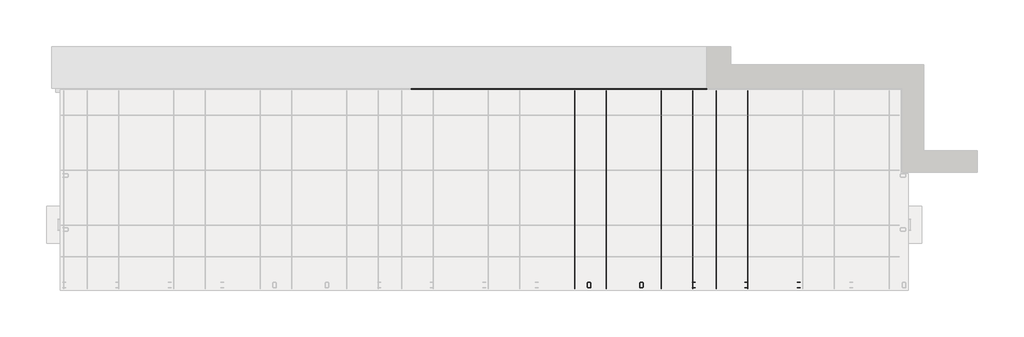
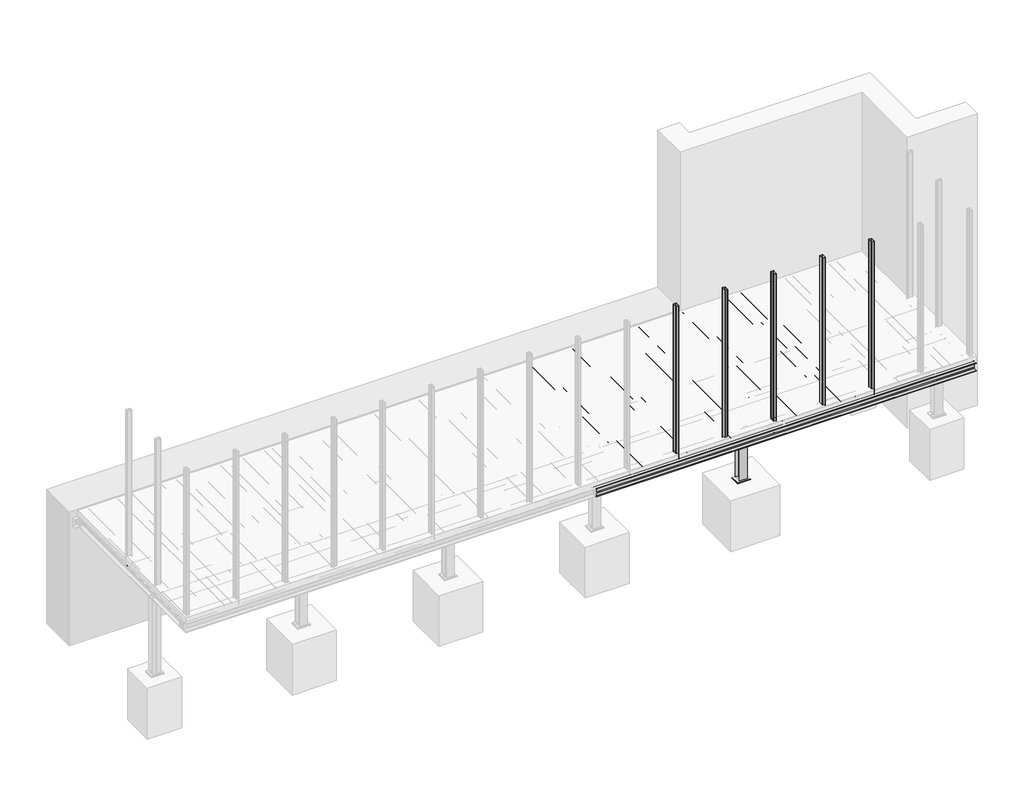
# One storey, part 4 of 36: 42 beams, 6 columns, 1 plate.
"""IFC4 building model written with IfcOpenShell, lengths in millimetres."""

from ifc_helpers import new_model, si_unit, point, frame, frame_2d, origin, place, context, project, spatial, polyline, circle_curve, trimmed, segment, composite_curve, outline, extrude, faceted_brep, element, save

model = new_model("IFC4")

# Units and contexts
model_context = context("Model", 3, world=origin())
ifc_project = project(units=[si_unit("LENGTHUNIT", "METRE", prefix="MILLI")], contexts=[model_context])

# Site, building, storey
site = spatial("IfcSite", under=ifc_project)
building = spatial("IfcBuilding", under=site)
storey = spatial("IfcBuildingStorey", under=building, Name="Základy", Elevation=-1200.0)

# Beams
placement = place(None, origin())
element("IfcBeam", 1, ObjectType="D12", at=placement, inside=storey, context=model_context, shape_type="SweptSolid", body=[
    extrude(outline(composite_curve([segment(trimmed(circle_curve(frame_2d((2079.992562, -139.0)), 6.0), [point((2073.992562, -139.0))], [point((2085.992562, -139.0))], False, "CARTESIAN"), True, "CONTINUOUS"), segment(trimmed(circle_curve(frame_2d((2079.992562, -139.0)), 6.0), [point((2085.992562, -139.0))], [point((2073.992562, -139.0))], False, "CARTESIAN"), True, "CONTINUOUS")], self_intersect=False)), frame((-40.0, 0.0, 0.0), z_axis=(1.0, 0.0, 0.0), x_axis=(0.0, 1.0, 0.0)), (0.0, 0.0, 1.0), 16180.0),
])
element("IfcBeam", 2, ObjectType="D8", at=placement, inside=storey, context=model_context, shape_type="SweptSolid", body=[
    extrude(outline(composite_curve([segment(trimmed(circle_curve(frame_2d((-49.0, 9177.5)), 4.0), [point((-49.0, 9173.5))], [point((-49.0, 9181.5))], False, "CARTESIAN"), True, "CONTINUOUS"), segment(trimmed(circle_curve(frame_2d((-49.0, 9177.5)), 4.0), [point((-49.0, 9181.5))], [point((-49.0, 9173.5))], False, "CARTESIAN"), True, "CONTINUOUS")], self_intersect=False)), frame((0.0, 35.0, 0.0), z_axis=(0.0, 1.0, 0.0), x_axis=(0.0, 0.0, 1.0)), (0.0, 0.0, 1.0), 3780.0),
])
element("IfcBeam", 3, ObjectType="D8", at=placement, inside=storey, context=model_context, shape_type="SweptSolid", body=[
    extrude(outline(composite_curve([segment(trimmed(circle_curve(frame_2d((-49.0, 9327.5)), 4.0), [point((-49.0, 9323.5))], [point((-49.0, 9331.5))], False, "CARTESIAN"), True, "CONTINUOUS"), segment(trimmed(circle_curve(frame_2d((-49.0, 9327.5)), 4.0), [point((-49.0, 9331.5))], [point((-49.0, 9323.5))], False, "CARTESIAN"), True, "CONTINUOUS")], self_intersect=False)), frame((0.0, 35.0, 0.0), z_axis=(0.0, 1.0, 0.0), x_axis=(0.0, 0.0, 1.0)), (0.0, 0.0, 1.0), 3780.0),
])
element("IfcBeam", 4, ObjectType="D8", at=placement, inside=storey, context=model_context, shape_type="SweptSolid", body=[
    extrude(outline(composite_curve([segment(trimmed(circle_curve(frame_2d((-49.0, 9477.5)), 4.0), [point((-49.0, 9473.5))], [point((-49.0, 9481.5))], False, "CARTESIAN"), True, "CONTINUOUS"), segment(trimmed(circle_curve(frame_2d((-49.0, 9477.5)), 4.0), [point((-49.0, 9481.5))], [point((-49.0, 9473.5))], False, "CARTESIAN"), True, "CONTINUOUS")], self_intersect=False)), frame((0.0, 35.0, 0.0), z_axis=(0.0, 1.0, 0.0), x_axis=(0.0, 0.0, 1.0)), (0.0, 0.0, 1.0), 3780.0),
])
element("IfcBeam", 5, ObjectType="D8", at=placement, inside=storey, context=model_context, shape_type="SweptSolid", body=[
    extrude(outline(composite_curve([segment(trimmed(circle_curve(frame_2d((-49.0, 9627.5)), 4.0), [point((-49.0, 9623.5))], [point((-49.0, 9631.5))], False, "CARTESIAN"), True, "CONTINUOUS"), segment(trimmed(circle_curve(frame_2d((-49.0, 9627.5)), 4.0), [point((-49.0, 9631.5))], [point((-49.0, 9623.5))], False, "CARTESIAN"), True, "CONTINUOUS")], self_intersect=False)), frame((0.0, 35.0, 0.0), z_axis=(0.0, 1.0, 0.0), x_axis=(0.0, 0.0, 1.0)), (0.0, 0.0, 1.0), 3780.0),
])
element("IfcBeam", 6, ObjectType="D8", at=placement, inside=storey, context=model_context, shape_type="SweptSolid", body=[
    extrude(outline(composite_curve([segment(trimmed(circle_curve(frame_2d((-49.0, 9777.5)), 4.0), [point((-49.0, 9773.5))], [point((-49.0, 9781.5))], False, "CARTESIAN"), True, "CONTINUOUS"), segment(trimmed(circle_curve(frame_2d((-49.0, 9777.5)), 4.0), [point((-49.0, 9781.5))], [point((-49.0, 9773.5))], False, "CARTESIAN"), True, "CONTINUOUS")], self_intersect=False)), frame((0.0, 35.0, 0.0), z_axis=(0.0, 1.0, 0.0), x_axis=(0.0, 0.0, 1.0)), (0.0, 0.0, 1.0), 3780.0),
])
element("IfcBeam", 7, ObjectType="D8", at=placement, inside=storey, context=model_context, shape_type="SweptSolid", body=[
    extrude(outline(composite_curve([segment(trimmed(circle_curve(frame_2d((-49.0, 9927.5)), 4.0), [point((-49.0, 9923.5))], [point((-49.0, 9931.5))], False, "CARTESIAN"), True, "CONTINUOUS"), segment(trimmed(circle_curve(frame_2d((-49.0, 9927.5)), 4.0), [point((-49.0, 9931.5))], [point((-49.0, 9923.5))], False, "CARTESIAN"), True, "CONTINUOUS")], self_intersect=False)), frame((0.0, 35.0, 0.0), z_axis=(0.0, 1.0, 0.0), x_axis=(0.0, 0.0, 1.0)), (0.0, 0.0, 1.0), 3780.0),
])
element("IfcBeam", 8, ObjectType="D8", at=placement, inside=storey, context=model_context, shape_type="SweptSolid", body=[
    extrude(outline(composite_curve([segment(trimmed(circle_curve(frame_2d((-49.0, 10077.5)), 4.0), [point((-49.0, 10073.5))], [point((-49.0, 10081.5))], False, "CARTESIAN"), True, "CONTINUOUS"), segment(trimmed(circle_curve(frame_2d((-49.0, 10077.5)), 4.0), [point((-49.0, 10081.5))], [point((-49.0, 10073.5))], False, "CARTESIAN"), True, "CONTINUOUS")], self_intersect=False)), frame((0.0, 35.0, 0.0), z_axis=(0.0, 1.0, 0.0), x_axis=(0.0, 0.0, 1.0)), (0.0, 0.0, 1.0), 3780.0),
])
element("IfcBeam", 9, ObjectType="D8", at=placement, inside=storey, context=model_context, shape_type="SweptSolid", body=[
    extrude(outline(composite_curve([segment(trimmed(circle_curve(frame_2d((-49.0, 10227.5)), 4.0), [point((-49.0, 10223.5))], [point((-49.0, 10231.5))], False, "CARTESIAN"), True, "CONTINUOUS"), segment(trimmed(circle_curve(frame_2d((-49.0, 10227.5)), 4.0), [point((-49.0, 10231.5))], [point((-49.0, 10223.5))], False, "CARTESIAN"), True, "CONTINUOUS")], self_intersect=False)), frame((0.0, 35.0, 0.0), z_axis=(0.0, 1.0, 0.0), x_axis=(0.0, 0.0, 1.0)), (0.0, 0.0, 1.0), 3780.0),
])
element("IfcBeam", 10, ObjectType="D8", at=placement, inside=storey, context=model_context, shape_type="SweptSolid", body=[
    extrude(outline(composite_curve([segment(trimmed(circle_curve(frame_2d((-49.0, 10377.5)), 4.0), [point((-49.0, 10373.5))], [point((-49.0, 10381.5))], False, "CARTESIAN"), True, "CONTINUOUS"), segment(trimmed(circle_curve(frame_2d((-49.0, 10377.5)), 4.0), [point((-49.0, 10381.5))], [point((-49.0, 10373.5))], False, "CARTESIAN"), True, "CONTINUOUS")], self_intersect=False)), frame((0.0, 35.0, 0.0), z_axis=(0.0, 1.0, 0.0), x_axis=(0.0, 0.0, 1.0)), (0.0, 0.0, 1.0), 3780.0),
])
element("IfcBeam", 11, ObjectType="D8", at=placement, inside=storey, context=model_context, shape_type="SweptSolid", body=[
    extrude(outline(composite_curve([segment(trimmed(circle_curve(frame_2d((-49.0, 10527.5)), 4.0), [point((-49.0, 10523.5))], [point((-49.0, 10531.5))], False, "CARTESIAN"), True, "CONTINUOUS"), segment(trimmed(circle_curve(frame_2d((-49.0, 10527.5)), 4.0), [point((-49.0, 10531.5))], [point((-49.0, 10523.5))], False, "CARTESIAN"), True, "CONTINUOUS")], self_intersect=False)), frame((0.0, 35.0, 0.0), z_axis=(0.0, 1.0, 0.0), x_axis=(0.0, 0.0, 1.0)), (0.0, 0.0, 1.0), 3780.0),
])
element("IfcBeam", 12, ObjectType="D8", at=placement, inside=storey, context=model_context, shape_type="SweptSolid", body=[
    extrude(outline(composite_curve([segment(trimmed(circle_curve(frame_2d((-49.0, 10677.5)), 4.0), [point((-49.0, 10673.5))], [point((-49.0, 10681.5))], False, "CARTESIAN"), True, "CONTINUOUS"), segment(trimmed(circle_curve(frame_2d((-49.0, 10677.5)), 4.0), [point((-49.0, 10681.5))], [point((-49.0, 10673.5))], False, "CARTESIAN"), True, "CONTINUOUS")], self_intersect=False)), frame((0.0, 35.0, 0.0), z_axis=(0.0, 1.0, 0.0), x_axis=(0.0, 0.0, 1.0)), (0.0, 0.0, 1.0), 3780.0),
])
element("IfcBeam", 13, ObjectType="D8", at=placement, inside=storey, context=model_context, shape_type="SweptSolid", body=[
    extrude(outline(composite_curve([segment(trimmed(circle_curve(frame_2d((-49.0, 10827.5)), 4.0), [point((-49.0, 10823.5))], [point((-49.0, 10831.5))], False, "CARTESIAN"), True, "CONTINUOUS"), segment(trimmed(circle_curve(frame_2d((-49.0, 10827.5)), 4.0), [point((-49.0, 10831.5))], [point((-49.0, 10823.5))], False, "CARTESIAN"), True, "CONTINUOUS")], self_intersect=False)), frame((0.0, 35.0, 0.0), z_axis=(0.0, 1.0, 0.0), x_axis=(0.0, 0.0, 1.0)), (0.0, 0.0, 1.0), 3780.0),
])
element("IfcBeam", 14, ObjectType="D8", at=placement, inside=storey, context=model_context, shape_type="SweptSolid", body=[
    extrude(outline(composite_curve([segment(trimmed(circle_curve(frame_2d((-49.0, 10977.5)), 4.0), [point((-49.0, 10973.5))], [point((-49.0, 10981.5))], False, "CARTESIAN"), True, "CONTINUOUS"), segment(trimmed(circle_curve(frame_2d((-49.0, 10977.5)), 4.0), [point((-49.0, 10981.5))], [point((-49.0, 10973.5))], False, "CARTESIAN"), True, "CONTINUOUS")], self_intersect=False)), frame((0.0, 35.0, 0.0), z_axis=(0.0, 1.0, 0.0), x_axis=(0.0, 0.0, 1.0)), (0.0, 0.0, 1.0), 3780.0),
])
element("IfcBeam", 15, ObjectType="D8", at=placement, inside=storey, context=model_context, shape_type="SweptSolid", body=[
    extrude(outline(composite_curve([segment(trimmed(circle_curve(frame_2d((-49.0, 11127.5)), 4.0), [point((-49.0, 11123.5))], [point((-49.0, 11131.5))], False, "CARTESIAN"), True, "CONTINUOUS"), segment(trimmed(circle_curve(frame_2d((-49.0, 11127.5)), 4.0), [point((-49.0, 11131.5))], [point((-49.0, 11123.5))], False, "CARTESIAN"), True, "CONTINUOUS")], self_intersect=False)), frame((0.0, 35.0, 0.0), z_axis=(0.0, 1.0, 0.0), x_axis=(0.0, 0.0, 1.0)), (0.0, 0.0, 1.0), 3780.0),
])
element("IfcBeam", 16, ObjectType="D8", at=placement, inside=storey, context=model_context, shape_type="SweptSolid", body=[
    extrude(outline(composite_curve([segment(trimmed(circle_curve(frame_2d((-49.0, 11277.5)), 4.0), [point((-49.0, 11273.5))], [point((-49.0, 11281.5))], False, "CARTESIAN"), True, "CONTINUOUS"), segment(trimmed(circle_curve(frame_2d((-49.0, 11277.5)), 4.0), [point((-49.0, 11281.5))], [point((-49.0, 11273.5))], False, "CARTESIAN"), True, "CONTINUOUS")], self_intersect=False)), frame((0.0, 35.0, 0.0), z_axis=(0.0, 1.0, 0.0), x_axis=(0.0, 0.0, 1.0)), (0.0, 0.0, 1.0), 3780.0),
])
element("IfcBeam", 17, ObjectType="D8", at=placement, inside=storey, context=model_context, shape_type="SweptSolid", body=[
    extrude(outline(composite_curve([segment(trimmed(circle_curve(frame_2d((-49.0, 11427.5)), 4.0), [point((-49.0, 11423.5))], [point((-49.0, 11431.5))], False, "CARTESIAN"), True, "CONTINUOUS"), segment(trimmed(circle_curve(frame_2d((-49.0, 11427.5)), 4.0), [point((-49.0, 11431.5))], [point((-49.0, 11423.5))], False, "CARTESIAN"), True, "CONTINUOUS")], self_intersect=False)), frame((0.0, 35.0, 0.0), z_axis=(0.0, 1.0, 0.0), x_axis=(0.0, 0.0, 1.0)), (0.0, 0.0, 1.0), 3780.0),
])
element("IfcBeam", 18, ObjectType="D8", at=placement, inside=storey, context=model_context, shape_type="SweptSolid", body=[
    extrude(outline(composite_curve([segment(trimmed(circle_curve(frame_2d((-49.0, 11577.5)), 4.0), [point((-49.0, 11573.5))], [point((-49.0, 11581.5))], False, "CARTESIAN"), True, "CONTINUOUS"), segment(trimmed(circle_curve(frame_2d((-49.0, 11577.5)), 4.0), [point((-49.0, 11581.5))], [point((-49.0, 11573.5))], False, "CARTESIAN"), True, "CONTINUOUS")], self_intersect=False)), frame((0.0, 35.0, 0.0), z_axis=(0.0, 1.0, 0.0), x_axis=(0.0, 0.0, 1.0)), (0.0, 0.0, 1.0), 3780.0),
])
element("IfcBeam", 19, ObjectType="D8", at=placement, inside=storey, context=model_context, shape_type="SweptSolid", body=[
    extrude(outline(composite_curve([segment(trimmed(circle_curve(frame_2d((-49.0, 11727.5)), 4.0), [point((-49.0, 11723.5))], [point((-49.0, 11731.5))], False, "CARTESIAN"), True, "CONTINUOUS"), segment(trimmed(circle_curve(frame_2d((-49.0, 11727.5)), 4.0), [point((-49.0, 11731.5))], [point((-49.0, 11723.5))], False, "CARTESIAN"), True, "CONTINUOUS")], self_intersect=False)), frame((0.0, 35.0, 0.0), z_axis=(0.0, 1.0, 0.0), x_axis=(0.0, 0.0, 1.0)), (0.0, 0.0, 1.0), 3780.0),
])
element("IfcBeam", 20, ObjectType="D8", at=placement, inside=storey, context=model_context, shape_type="SweptSolid", body=[
    extrude(outline(composite_curve([segment(trimmed(circle_curve(frame_2d((-49.0, 11877.5)), 4.0), [point((-49.0, 11873.5))], [point((-49.0, 11881.5))], False, "CARTESIAN"), True, "CONTINUOUS"), segment(trimmed(circle_curve(frame_2d((-49.0, 11877.5)), 4.0), [point((-49.0, 11881.5))], [point((-49.0, 11873.5))], False, "CARTESIAN"), True, "CONTINUOUS")], self_intersect=False)), frame((0.0, 35.0, 0.0), z_axis=(0.0, 1.0, 0.0), x_axis=(0.0, 0.0, 1.0)), (0.0, 0.0, 1.0), 3780.0),
])
element("IfcBeam", 21, ObjectType="D8", at=placement, inside=storey, context=model_context, shape_type="SweptSolid", body=[
    extrude(outline(composite_curve([segment(trimmed(circle_curve(frame_2d((-49.0, 12027.5)), 4.0), [point((-49.0, 12023.5))], [point((-49.0, 12031.5))], False, "CARTESIAN"), True, "CONTINUOUS"), segment(trimmed(circle_curve(frame_2d((-49.0, 12027.5)), 4.0), [point((-49.0, 12031.5))], [point((-49.0, 12023.5))], False, "CARTESIAN"), True, "CONTINUOUS")], self_intersect=False)), frame((0.0, 35.0, 0.0), z_axis=(0.0, 1.0, 0.0), x_axis=(0.0, 0.0, 1.0)), (0.0, 0.0, 1.0), 3780.0),
])
element("IfcBeam", 22, ObjectType="D8", at=placement, inside=storey, context=model_context, shape_type="SweptSolid", body=[
    extrude(outline(composite_curve([segment(trimmed(circle_curve(frame_2d((-49.0, 12177.5)), 4.0), [point((-49.0, 12173.5))], [point((-49.0, 12181.5))], False, "CARTESIAN"), True, "CONTINUOUS"), segment(trimmed(circle_curve(frame_2d((-49.0, 12177.5)), 4.0), [point((-49.0, 12181.5))], [point((-49.0, 12173.5))], False, "CARTESIAN"), True, "CONTINUOUS")], self_intersect=False)), frame((0.0, 35.0, 0.0), z_axis=(0.0, 1.0, 0.0), x_axis=(0.0, 0.0, 1.0)), (0.0, 0.0, 1.0), 3780.0),
])
element("IfcBeam", 23, ObjectType="D8", at=placement, inside=storey, context=model_context, shape_type="SweptSolid", body=[
    extrude(outline(composite_curve([segment(trimmed(circle_curve(frame_2d((-49.0, 12327.5)), 4.0), [point((-49.0, 12323.5))], [point((-49.0, 12331.5))], False, "CARTESIAN"), True, "CONTINUOUS"), segment(trimmed(circle_curve(frame_2d((-49.0, 12327.5)), 4.0), [point((-49.0, 12331.5))], [point((-49.0, 12323.5))], False, "CARTESIAN"), True, "CONTINUOUS")], self_intersect=False)), frame((0.0, 35.0, 0.0), z_axis=(0.0, 1.0, 0.0), x_axis=(0.0, 0.0, 1.0)), (0.0, 0.0, 1.0), 3780.0),
])
element("IfcBeam", 24, ObjectType="D8", at=placement, inside=storey, context=model_context, shape_type="SweptSolid", body=[
    extrude(outline(composite_curve([segment(trimmed(circle_curve(frame_2d((-49.0, 12477.5)), 4.0), [point((-49.0, 12473.5))], [point((-49.0, 12481.5))], False, "CARTESIAN"), True, "CONTINUOUS"), segment(trimmed(circle_curve(frame_2d((-49.0, 12477.5)), 4.0), [point((-49.0, 12481.5))], [point((-49.0, 12473.5))], False, "CARTESIAN"), True, "CONTINUOUS")], self_intersect=False)), frame((0.0, 35.0, 0.0), z_axis=(0.0, 1.0, 0.0), x_axis=(0.0, 0.0, 1.0)), (0.0, 0.0, 1.0), 3780.0),
])
element("IfcBeam", 25, ObjectType="D8", at=placement, inside=storey, context=model_context, shape_type="SweptSolid", body=[
    extrude(outline(composite_curve([segment(trimmed(circle_curve(frame_2d((-49.0, 12627.5)), 4.0), [point((-49.0, 12623.5))], [point((-49.0, 12631.5))], False, "CARTESIAN"), True, "CONTINUOUS"), segment(trimmed(circle_curve(frame_2d((-49.0, 12627.5)), 4.0), [point((-49.0, 12631.5))], [point((-49.0, 12623.5))], False, "CARTESIAN"), True, "CONTINUOUS")], self_intersect=False)), frame((0.0, 35.0, 0.0), z_axis=(0.0, 1.0, 0.0), x_axis=(0.0, 0.0, 1.0)), (0.0, 0.0, 1.0), 3780.0),
])
element("IfcBeam", 26, ObjectType="D8", at=placement, inside=storey, context=model_context, shape_type="SweptSolid", body=[
    extrude(outline(composite_curve([segment(trimmed(circle_curve(frame_2d((-49.0, 12777.5)), 4.0), [point((-49.0, 12773.5))], [point((-49.0, 12781.5))], False, "CARTESIAN"), True, "CONTINUOUS"), segment(trimmed(circle_curve(frame_2d((-49.0, 12777.5)), 4.0), [point((-49.0, 12781.5))], [point((-49.0, 12773.5))], False, "CARTESIAN"), True, "CONTINUOUS")], self_intersect=False)), frame((0.0, 35.0, 0.0), z_axis=(0.0, 1.0, 0.0), x_axis=(0.0, 0.0, 1.0)), (0.0, 0.0, 1.0), 3780.0),
])
element("IfcBeam", 27, ObjectType="D8", at=placement, inside=storey, context=model_context, shape_type="SweptSolid", body=[
    extrude(outline(composite_curve([segment(trimmed(circle_curve(frame_2d((-49.0, 12927.5)), 4.0), [point((-49.0, 12923.5))], [point((-49.0, 12931.5))], False, "CARTESIAN"), True, "CONTINUOUS"), segment(trimmed(circle_curve(frame_2d((-49.0, 12927.5)), 4.0), [point((-49.0, 12931.5))], [point((-49.0, 12923.5))], False, "CARTESIAN"), True, "CONTINUOUS")], self_intersect=False)), frame((0.0, 35.0, 0.0), z_axis=(0.0, 1.0, 0.0), x_axis=(0.0, 0.0, 1.0)), (0.0, 0.0, 1.0), 3780.0),
])
element("IfcBeam", 28, ObjectType="D8", at=placement, inside=storey, context=model_context, shape_type="SweptSolid", body=[
    extrude(outline(composite_curve([segment(trimmed(circle_curve(frame_2d((-49.0, 13077.5)), 4.0), [point((-49.0, 13073.5))], [point((-49.0, 13081.5))], False, "CARTESIAN"), True, "CONTINUOUS"), segment(trimmed(circle_curve(frame_2d((-49.0, 13077.5)), 4.0), [point((-49.0, 13081.5))], [point((-49.0, 13073.5))], False, "CARTESIAN"), True, "CONTINUOUS")], self_intersect=False)), frame((0.0, 35.0, 0.0), z_axis=(0.0, 1.0, 0.0), x_axis=(0.0, 0.0, 1.0)), (0.0, 0.0, 1.0), 3780.0),
])
element("IfcBeam", 29, ObjectType="D8", at=placement, inside=storey, context=model_context, shape_type="SweptSolid", body=[
    extrude(outline(composite_curve([segment(trimmed(circle_curve(frame_2d((-49.0, 13227.5)), 4.0), [point((-49.0, 13223.5))], [point((-49.0, 13231.5))], False, "CARTESIAN"), True, "CONTINUOUS"), segment(trimmed(circle_curve(frame_2d((-49.0, 13227.5)), 4.0), [point((-49.0, 13231.5))], [point((-49.0, 13223.5))], False, "CARTESIAN"), True, "CONTINUOUS")], self_intersect=False)), frame((0.0, 35.0, 0.0), z_axis=(0.0, 1.0, 0.0), x_axis=(0.0, 0.0, 1.0)), (0.0, 0.0, 1.0), 3780.0),
])
element("IfcBeam", 30, ObjectType="D8", at=placement, inside=storey, context=model_context, shape_type="SweptSolid", body=[
    extrude(outline(composite_curve([segment(trimmed(circle_curve(frame_2d((-49.0, 13377.5)), 4.0), [point((-49.0, 13373.5))], [point((-49.0, 13381.5))], False, "CARTESIAN"), True, "CONTINUOUS"), segment(trimmed(circle_curve(frame_2d((-49.0, 13377.5)), 4.0), [point((-49.0, 13381.5))], [point((-49.0, 13373.5))], False, "CARTESIAN"), True, "CONTINUOUS")], self_intersect=False)), frame((0.0, 35.0, 0.0), z_axis=(0.0, 1.0, 0.0), x_axis=(0.0, 0.0, 1.0)), (0.0, 0.0, 1.0), 3780.0),
])
element("IfcBeam", 31, ObjectType="D8", at=placement, inside=storey, context=model_context, shape_type="SweptSolid", body=[
    extrude(outline(composite_curve([segment(trimmed(circle_curve(frame_2d((-49.0, 13527.5)), 4.0), [point((-49.0, 13523.5))], [point((-49.0, 13531.5))], False, "CARTESIAN"), True, "CONTINUOUS"), segment(trimmed(circle_curve(frame_2d((-49.0, 13527.5)), 4.0), [point((-49.0, 13531.5))], [point((-49.0, 13523.5))], False, "CARTESIAN"), True, "CONTINUOUS")], self_intersect=False)), frame((0.0, 35.0, 0.0), z_axis=(0.0, 1.0, 0.0), x_axis=(0.0, 0.0, 1.0)), (0.0, 0.0, 1.0), 3780.0),
])
element("IfcBeam", 32, ObjectType="D8", at=placement, inside=storey, context=model_context, shape_type="SweptSolid", body=[
    extrude(outline(composite_curve([segment(trimmed(circle_curve(frame_2d((-49.0, 13677.5)), 4.0), [point((-49.0, 13673.5))], [point((-49.0, 13681.5))], False, "CARTESIAN"), True, "CONTINUOUS"), segment(trimmed(circle_curve(frame_2d((-49.0, 13677.5)), 4.0), [point((-49.0, 13681.5))], [point((-49.0, 13673.5))], False, "CARTESIAN"), True, "CONTINUOUS")], self_intersect=False)), frame((0.0, 35.0, 0.0), z_axis=(0.0, 1.0, 0.0), x_axis=(0.0, 0.0, 1.0)), (0.0, 0.0, 1.0), 3780.0),
])
element("IfcBeam", 33, ObjectType="D8", at=placement, inside=storey, context=model_context, shape_type="SweptSolid", body=[
    extrude(outline(composite_curve([segment(trimmed(circle_curve(frame_2d((-49.0, 13827.5)), 4.0), [point((-49.0, 13823.5))], [point((-49.0, 13831.5))], False, "CARTESIAN"), True, "CONTINUOUS"), segment(trimmed(circle_curve(frame_2d((-49.0, 13827.5)), 4.0), [point((-49.0, 13831.5))], [point((-49.0, 13823.5))], False, "CARTESIAN"), True, "CONTINUOUS")], self_intersect=False)), frame((0.0, 35.0, 0.0), z_axis=(0.0, 1.0, 0.0), x_axis=(0.0, 0.0, 1.0)), (0.0, 0.0, 1.0), 3780.0),
])
element("IfcBeam", 34, ObjectType="D8", at=placement, inside=storey, context=model_context, shape_type="SweptSolid", body=[
    extrude(outline(composite_curve([segment(trimmed(circle_curve(frame_2d((-49.0, 13977.5)), 4.0), [point((-49.0, 13973.5))], [point((-49.0, 13981.5))], False, "CARTESIAN"), True, "CONTINUOUS"), segment(trimmed(circle_curve(frame_2d((-49.0, 13977.5)), 4.0), [point((-49.0, 13981.5))], [point((-49.0, 13973.5))], False, "CARTESIAN"), True, "CONTINUOUS")], self_intersect=False)), frame((0.0, 35.0, 0.0), z_axis=(0.0, 1.0, 0.0), x_axis=(0.0, 0.0, 1.0)), (0.0, 0.0, 1.0), 3780.0),
])
element("IfcBeam", 35, ObjectType="HEA120", at=placement, inside=storey, context=model_context, shape_type="SweptSolid", body=[
    extrude(outline(composite_curve([segment(polyline([(1200.0, -193.0), (1320.0, -193.0), (1320.0, -201.0), (1274.5, -201.0)]), True, "CONTINUOUS"), segment(trimmed(circle_curve(frame_2d((1274.5, -213.0)), 12.0), [point((1274.5, -201.0))], [point((1262.5, -213.0))], True, "CARTESIAN"), True, "CONTINUOUS"), segment(polyline([(1262.5, -213.0), (1262.5, -287.0)]), True, "CONTINUOUS"), segment(trimmed(circle_curve(frame_2d((1274.5, -287.0)), 12.0), [point((1262.5, -287.0))], [point((1274.5, -299.0))], True, "CARTESIAN"), True, "CONTINUOUS"), segment(polyline([(1274.5, -299.0), (1320.0, -299.0), (1320.0, -307.0), (1200.0, -307.0), (1200.0, -299.0), (1245.5, -299.0)]), True, "CONTINUOUS"), segment(trimmed(circle_curve(frame_2d((1245.5, -287.0)), 12.0), [point((1245.5, -299.0))], [point((1257.5, -287.0))], True, "CARTESIAN"), True, "CONTINUOUS"), segment(polyline([(1257.5, -287.0), (1257.5, -213.0)]), True, "CONTINUOUS"), segment(trimmed(circle_curve(frame_2d((1245.5, -213.0)), 12.0), [point((1257.5, -213.0))], [point((1245.5, -201.0))], True, "CARTESIAN"), True, "CONTINUOUS"), segment(polyline([(1245.5, -201.0), (1200.0, -201.0), (1200.0, -193.0)]), True, "CONTINUOUS")], self_intersect=False)), frame((9160.0, 0.0, 0.0), z_axis=(1.0, 0.0, 0.0), x_axis=(0.0, 1.0, 0.0)), (0.0, 0.0, 1.0), 2780.0),
])
element("IfcBeam", 36, ObjectType="HEB180", at=placement, inside=storey, context=model_context, shape_type="SweptSolid", body=[
    extrude(outline(composite_curve([segment(polyline([(-340.0, 12140.0), (-326.0, 12140.0), (-326.0, 12069.25)]), True, "CONTINUOUS"), segment(trimmed(circle_curve(frame_2d((-311.0, 12069.25)), 15.0), [point((-326.0, 12069.25))], [point((-311.0, 12054.25))], True, "CARTESIAN"), True, "CONTINUOUS"), segment(polyline([(-311.0, 12054.25), (-189.0, 12054.25)]), True, "CONTINUOUS"), segment(trimmed(circle_curve(frame_2d((-189.0, 12069.25)), 15.0), [point((-189.0, 12054.25))], [point((-174.0, 12069.25))], True, "CARTESIAN"), True, "CONTINUOUS"), segment(polyline([(-174.0, 12069.25), (-174.0, 12140.0), (-160.0, 12140.0), (-160.0, 11960.0), (-174.0, 11960.0), (-174.0, 12030.75)]), True, "CONTINUOUS"), segment(trimmed(circle_curve(frame_2d((-189.0, 12030.75)), 15.0), [point((-174.0, 12030.75))], [point((-189.0, 12045.75))], True, "CARTESIAN"), True, "CONTINUOUS"), segment(polyline([(-189.0, 12045.75), (-311.0, 12045.75)]), True, "CONTINUOUS"), segment(trimmed(circle_curve(frame_2d((-311.0, 12030.75)), 15.0), [point((-311.0, 12045.75))], [point((-326.0, 12030.75))], True, "CARTESIAN"), True, "CONTINUOUS"), segment(polyline([(-326.0, 12030.75), (-326.0, 11960.0), (-340.0, 11960.0), (-340.0, 12140.0)]), True, "CONTINUOUS")], self_intersect=False)), frame((0.0, 210.0, 0.0), z_axis=(0.0, 1.0, 0.0), x_axis=(0.0, 0.0, 1.0)), (0.0, 0.0, 1.0), 3557.0),
])
element("IfcBeam", 37, ObjectType="HEB180", at=placement, inside=storey, context=model_context, shape_type="SweptSolid", body=[
    extrude(outline(composite_curve([segment(polyline([(10.0, -160.0), (190.0, -160.0), (190.0, -174.0), (119.25, -174.0)]), True, "CONTINUOUS"), segment(trimmed(circle_curve(frame_2d((119.25, -189.0)), 15.0), [point((119.25, -174.0))], [point((104.25, -189.0))], True, "CARTESIAN"), True, "CONTINUOUS"), segment(polyline([(104.25, -189.0), (104.25, -311.0)]), True, "CONTINUOUS"), segment(trimmed(circle_curve(frame_2d((119.25, -311.0)), 15.0), [point((104.25, -311.0))], [point((119.25, -326.0))], True, "CARTESIAN"), True, "CONTINUOUS"), segment(polyline([(119.25, -326.0), (190.0, -326.0), (190.0, -340.0), (10.0, -340.0), (10.0, -326.0), (80.75, -326.0)]), True, "CONTINUOUS"), segment(trimmed(circle_curve(frame_2d((80.75, -311.0)), 15.0), [point((80.75, -326.0))], [point((95.75, -311.0))], True, "CARTESIAN"), True, "CONTINUOUS"), segment(polyline([(95.75, -311.0), (95.75, -189.0)]), True, "CONTINUOUS"), segment(trimmed(circle_curve(frame_2d((80.75, -189.0)), 15.0), [point((95.75, -189.0))], [point((80.75, -174.0))], True, "CARTESIAN"), True, "CONTINUOUS"), segment(polyline([(80.75, -174.0), (10.0, -174.0), (10.0, -160.0)]), True, "CONTINUOUS")], self_intersect=False)), frame((8360.0, 0.0, 0.0), z_axis=(1.0, 0.0, 0.0), x_axis=(0.0, 1.0, 0.0)), (0.0, 0.0, 1.0), 7780.0),
])
element("IfcBeam", 38, ObjectType="TR50/250", at=placement, inside=storey, context=model_context, shape_type="SweptSolid", body=[
    extrude(outline(polyline([(3802.7875602, -160.0099992), (3772.2875602, -111.5000008), (3637.6975638, -111.5000008), (3607.1975638, -160.0000008), (3552.7875754, -160.0000008), (3522.2875754, -111.5000008), (3387.6975715, -111.5000008), (3357.1975715, -160.0000008), (3302.7875697, -160.0000008), (3272.2875716, -111.5000008), (3137.6975638, -111.5000008), (3107.1975638, -160.0000008), (3052.7875602, -160.0000008), (3022.2875602, -111.5000008), (2887.6975638, -111.5000008), (2857.1975638, -160.0000008), (2802.7875602, -160.0000008), (2790.7375724, -139.4300002), (2803.1975638, -159.2500008), (2856.7875602, -159.2500008), (2887.2875602, -110.7500008), (3022.6975638, -110.7500008), (3053.1975638, -159.2500008), (3106.7875754, -159.2500008), (3137.2875754, -110.7500008), (3272.6975715, -110.7500008), (3303.1975695, -159.2500008), (3356.7875716, -159.2500008), (3387.2875678, -110.7500008), (3522.6975638, -110.7500008), (3553.1975638, -159.2500008), (3606.7875602, -159.2500008), (3637.2875602, -110.7500008), (3772.6975638, -110.7500008), (3803.1975638, -159.2500008), (3839.9975821, -160.0000008), (3802.7875602, -160.0099992)])), frame((8960.0, 0.0, 0.0), z_axis=(1.0, 0.0, 0.0), x_axis=(0.0, 1.0, 0.0)), (0.0, 0.0, 1.0), 3180.0),
])
element("IfcBeam", 39, ObjectType="TR50/250", at=placement, inside=storey, context=model_context, shape_type="SweptSolid", body=[
    extrude(outline(polyline([(2802.7875602, -160.0099992), (2772.2875602, -111.5000008), (2637.6975638, -111.5000008), (2607.1975638, -160.0000008), (2552.7875754, -160.0000008), (2522.2875754, -111.5000008), (2387.6975715, -111.5000008), (2357.1975715, -160.0000008), (2302.7875697, -160.0000008), (2272.2875716, -111.5000008), (2137.6975638, -111.5000008), (2107.1975638, -160.0000008), (2052.7875602, -160.0000008), (2022.2875602, -111.5000008), (1887.6975638, -111.5000008), (1857.1975638, -160.0000008), (1802.7875602, -160.0000008), (1790.7375724, -139.4300002), (1803.1975638, -159.2500008), (1856.7875602, -159.2500008), (1887.2875602, -110.7500008), (2022.6975638, -110.7500008), (2053.1975638, -159.2500008), (2106.7875754, -159.2500008), (2137.2875754, -110.7500008), (2272.6975715, -110.7500008), (2303.1975695, -159.2500008), (2356.7875716, -159.2500008), (2387.2875678, -110.7500008), (2522.6975638, -110.7500008), (2553.1975638, -159.2500008), (2606.7875602, -159.2500008), (2637.2875602, -110.7500008), (2772.6975638, -110.7500008), (2803.1975638, -159.2500008), (2839.9975821, -160.0000008), (2802.7875602, -160.0099992)])), frame((8960.0, 0.0, 0.0), z_axis=(1.0, 0.0, 0.0), x_axis=(0.0, 1.0, 0.0)), (0.0, 0.0, 1.0), 3180.0),
])
element("IfcBeam", 40, ObjectType="TR50/250", at=placement, inside=storey, context=model_context, shape_type="SweptSolid", body=[
    extrude(outline(polyline([(1802.7875602, -160.0099992), (1772.2875602, -111.5000008), (1637.6975638, -111.5000008), (1607.1975638, -160.0000008), (1552.7875754, -160.0000008), (1522.2875754, -111.5000008), (1387.6975715, -111.5000008), (1357.1975715, -160.0000008), (1302.7875697, -160.0000008), (1272.2875716, -111.5000008), (1137.6975638, -111.5000008), (1107.1975638, -160.0000008), (1052.7875602, -160.0000008), (1022.2875602, -111.5000008), (887.6975638, -111.5000008), (857.1975638, -160.0000008), (802.7875602, -160.0000008), (790.7375724, -139.4300002), (803.1975638, -159.2500008), (856.7875602, -159.2500008), (887.2875602, -110.7500008), (1022.6975638, -110.7500008), (1053.1975638, -159.2500008), (1106.7875754, -159.2500008), (1137.2875754, -110.7500008), (1272.6975715, -110.7500008), (1303.1975695, -159.2500008), (1356.7875716, -159.2500008), (1387.2875678, -110.7500008), (1522.6975638, -110.7500008), (1553.1975638, -159.2500008), (1606.7875602, -159.2500008), (1637.2875602, -110.7500008), (1772.6975638, -110.7500008), (1803.1975638, -159.2500008), (1839.9975821, -160.0000008), (1802.7875602, -160.0099992)])), frame((8960.0, 0.0, 0.0), z_axis=(1.0, 0.0, 0.0), x_axis=(0.0, 1.0, 0.0)), (0.0, 0.0, 1.0), 3180.0),
])
element("IfcBeam", 41, ObjectType="TR50/250", at=placement, inside=storey, context=model_context, shape_type="SweptSolid", body=[
    extrude(outline(polyline([(802.7875602, -160.0099992), (772.2875602, -111.5000008), (637.6975638, -111.5000008), (607.1975638, -160.0000008), (552.7875754, -160.0000008), (522.2875754, -111.5000008), (387.6975715, -111.5000008), (357.1975715, -160.0000008), (302.7875697, -160.0000008), (272.2875716, -111.5000008), (160.0, -111.5000008), (160.0, -110.7500008), (272.6975715, -110.7500008), (303.1975695, -159.2500008), (356.7875716, -159.2500008), (387.2875678, -110.7500008), (522.6975638, -110.7500008), (553.1975638, -159.2500008), (606.7875602, -159.2500008), (637.2875602, -110.7500008), (772.6975638, -110.7500008), (803.1975638, -159.2500008), (839.9975821, -160.0000008), (802.7875602, -160.0099992)])), frame((8960.0, 0.0, 0.0), z_axis=(1.0, 0.0, 0.0), x_axis=(0.0, 1.0, 0.0)), (0.0, 0.0, 1.0), 3180.0),
])
element("IfcBeam", 42, ObjectType="UPE180", at=placement, inside=storey, context=model_context, shape_type="SweptSolid", body=[
    extrude(outline(polyline([(3860.0, -160.0), (3860.0, -340.0), (3785.0, -340.0), (3785.0, -329.5), (3854.5, -329.5), (3854.5, -170.5), (3785.0, -170.5), (3785.0, -160.0), (3860.0, -160.0)])), frame((6660.0, 0.0, 0.0), z_axis=(1.0, 0.0, 0.0), x_axis=(0.0, 1.0, 0.0)), (0.0, 0.0, 1.0), 5635.0),
])

# Columns
element("IfcColumn", 43, ObjectType="RHS100*60*3.2", at=placement, inside=storey, context=model_context, shape_type="SweptSolid", body=[
    extrude(outline(composite_curve([segment(polyline([(12073.6, 60.0), (12026.4, 60.0)]), True, "CONTINUOUS"), segment(trimmed(circle_curve(frame_2d((12026.4, 66.4)), 6.4), [point((12026.4, 60.0))], [point((12020.0, 66.4))], False, "CARTESIAN"), True, "CONTINUOUS"), segment(polyline([(12020.0, 66.4), (12020.0, 153.6)]), True, "CONTINUOUS"), segment(trimmed(circle_curve(frame_2d((12026.4, 153.6)), 6.4), [point((12020.0, 153.6))], [point((12026.4, 160.0))], False, "CARTESIAN"), True, "CONTINUOUS"), segment(polyline([(12026.4, 160.0), (12073.6, 160.0)]), True, "CONTINUOUS"), segment(trimmed(circle_curve(frame_2d((12073.6, 153.6)), 6.4), [point((12073.6, 160.0))], [point((12080.0, 153.6))], False, "CARTESIAN"), True, "CONTINUOUS"), segment(polyline([(12080.0, 153.6), (12080.0, 66.4)]), True, "CONTINUOUS"), segment(trimmed(circle_curve(frame_2d((12073.6, 66.4)), 6.4), [point((12080.0, 66.4))], [point((12073.6, 60.0))], False, "CARTESIAN"), True, "CONTINUOUS")], self_intersect=False), holes=[composite_curve([segment(trimmed(circle_curve(frame_2d((12073.6, 66.4)), 3.2), [point((12073.6, 63.2))], [point((12076.8, 66.4))], True, "CARTESIAN"), True, "CONTINUOUS"), segment(polyline([(12076.8, 66.4), (12076.8, 153.6)]), True, "CONTINUOUS"), segment(trimmed(circle_curve(frame_2d((12073.6, 153.6)), 3.2), [point((12076.8, 153.6))], [point((12073.6, 156.8))], True, "CARTESIAN"), True, "CONTINUOUS"), segment(polyline([(12073.6, 156.8), (12026.4, 156.8)]), True, "CONTINUOUS"), segment(trimmed(circle_curve(frame_2d((12026.4, 153.6)), 3.2), [point((12026.4, 156.8))], [point((12023.2, 153.6))], True, "CARTESIAN"), True, "CONTINUOUS"), segment(polyline([(12023.2, 153.6), (12023.2, 66.4)]), True, "CONTINUOUS"), segment(trimmed(circle_curve(frame_2d((12026.4, 66.4)), 3.2), [point((12023.2, 66.4))], [point((12026.4, 63.2))], True, "CARTESIAN"), True, "CONTINUOUS"), segment(polyline([(12026.4, 63.2), (12073.6, 63.2)]), True, "CONTINUOUS")], self_intersect=False)]), frame((0.0, 0.0, -160.0), z_axis=(0.0, 0.0, 1.0), x_axis=(1.0, 0.0, 0.0)), (0.0, 0.0, 1.0), 3320.0),
])
element("IfcColumn", 44, ObjectType="RHS100*60*3.2", at=placement, inside=storey, context=model_context, shape_type="SweptSolid", body=[
    extrude(outline(composite_curve([segment(polyline([(11073.6, 60.0), (11026.4, 60.0)]), True, "CONTINUOUS"), segment(trimmed(circle_curve(frame_2d((11026.4, 66.4)), 6.4), [point((11026.4, 60.0))], [point((11020.0, 66.4))], False, "CARTESIAN"), True, "CONTINUOUS"), segment(polyline([(11020.0, 66.4), (11020.0, 153.6)]), True, "CONTINUOUS"), segment(trimmed(circle_curve(frame_2d((11026.4, 153.6)), 6.4), [point((11020.0, 153.6))], [point((11026.4, 160.0))], False, "CARTESIAN"), True, "CONTINUOUS"), segment(polyline([(11026.4, 160.0), (11073.6, 160.0)]), True, "CONTINUOUS"), segment(trimmed(circle_curve(frame_2d((11073.6, 153.6)), 6.4), [point((11073.6, 160.0))], [point((11080.0, 153.6))], False, "CARTESIAN"), True, "CONTINUOUS"), segment(polyline([(11080.0, 153.6), (11080.0, 66.4)]), True, "CONTINUOUS"), segment(trimmed(circle_curve(frame_2d((11073.6, 66.4)), 6.4), [point((11080.0, 66.4))], [point((11073.6, 60.0))], False, "CARTESIAN"), True, "CONTINUOUS")], self_intersect=False), holes=[composite_curve([segment(trimmed(circle_curve(frame_2d((11073.6, 66.4)), 3.2), [point((11073.6, 63.2))], [point((11076.8, 66.4))], True, "CARTESIAN"), True, "CONTINUOUS"), segment(polyline([(11076.8, 66.4), (11076.8, 153.6)]), True, "CONTINUOUS"), segment(trimmed(circle_curve(frame_2d((11073.6, 153.6)), 3.2), [point((11076.8, 153.6))], [point((11073.6, 156.8))], True, "CARTESIAN"), True, "CONTINUOUS"), segment(polyline([(11073.6, 156.8), (11026.4, 156.8)]), True, "CONTINUOUS"), segment(trimmed(circle_curve(frame_2d((11026.4, 153.6)), 3.2), [point((11026.4, 156.8))], [point((11023.2, 153.6))], True, "CARTESIAN"), True, "CONTINUOUS"), segment(polyline([(11023.2, 153.6), (11023.2, 66.4)]), True, "CONTINUOUS"), segment(trimmed(circle_curve(frame_2d((11026.4, 66.4)), 3.2), [point((11023.2, 66.4))], [point((11026.4, 63.2))], True, "CARTESIAN"), True, "CONTINUOUS"), segment(polyline([(11026.4, 63.2), (11073.6, 63.2)]), True, "CONTINUOUS")], self_intersect=False)]), frame((0.0, 0.0, -160.0), z_axis=(0.0, 0.0, 1.0), x_axis=(1.0, 0.0, 0.0)), (0.0, 0.0, 1.0), 3320.0),
])
element("IfcColumn", 45, ObjectType="RHS100*60*3.2", at=placement, inside=storey, context=model_context, shape_type="SweptSolid", body=[
    extrude(outline(composite_curve([segment(polyline([(10073.6, 60.0), (10026.4, 60.0)]), True, "CONTINUOUS"), segment(trimmed(circle_curve(frame_2d((10026.4, 66.4)), 6.4), [point((10026.4, 60.0))], [point((10020.0, 66.4))], False, "CARTESIAN"), True, "CONTINUOUS"), segment(polyline([(10020.0, 66.4), (10020.0, 153.6)]), True, "CONTINUOUS"), segment(trimmed(circle_curve(frame_2d((10026.4, 153.6)), 6.4), [point((10020.0, 153.6))], [point((10026.4, 160.0))], False, "CARTESIAN"), True, "CONTINUOUS"), segment(polyline([(10026.4, 160.0), (10073.6, 160.0)]), True, "CONTINUOUS"), segment(trimmed(circle_curve(frame_2d((10073.6, 153.6)), 6.4), [point((10073.6, 160.0))], [point((10080.0, 153.6))], False, "CARTESIAN"), True, "CONTINUOUS"), segment(polyline([(10080.0, 153.6), (10080.0, 66.4)]), True, "CONTINUOUS"), segment(trimmed(circle_curve(frame_2d((10073.6, 66.4)), 6.4), [point((10080.0, 66.4))], [point((10073.6, 60.0))], False, "CARTESIAN"), True, "CONTINUOUS")], self_intersect=False), holes=[composite_curve([segment(trimmed(circle_curve(frame_2d((10073.6, 66.4)), 3.2), [point((10073.6, 63.2))], [point((10076.8, 66.4))], True, "CARTESIAN"), True, "CONTINUOUS"), segment(polyline([(10076.8, 66.4), (10076.8, 153.6)]), True, "CONTINUOUS"), segment(trimmed(circle_curve(frame_2d((10073.6, 153.6)), 3.2), [point((10076.8, 153.6))], [point((10073.6, 156.8))], True, "CARTESIAN"), True, "CONTINUOUS"), segment(polyline([(10073.6, 156.8), (10026.4, 156.8)]), True, "CONTINUOUS"), segment(trimmed(circle_curve(frame_2d((10026.4, 153.6)), 3.2), [point((10026.4, 156.8))], [point((10023.2, 153.6))], True, "CARTESIAN"), True, "CONTINUOUS"), segment(polyline([(10023.2, 153.6), (10023.2, 66.4)]), True, "CONTINUOUS"), segment(trimmed(circle_curve(frame_2d((10026.4, 66.4)), 3.2), [point((10023.2, 66.4))], [point((10026.4, 63.2))], True, "CARTESIAN"), True, "CONTINUOUS"), segment(polyline([(10026.4, 63.2), (10073.6, 63.2)]), True, "CONTINUOUS")], self_intersect=False)]), frame((0.0, 0.0, -160.0), z_axis=(0.0, 0.0, 1.0), x_axis=(1.0, 0.0, 0.0)), (0.0, 0.0, 1.0), 3320.0),
])
element("IfcColumn", 46, ObjectType="RHS100*60*3.2", at=placement, inside=storey, context=model_context, shape_type="SweptSolid", body=[
    extrude(outline(composite_curve([segment(polyline([(13073.6, 60.0), (13026.4, 60.0)]), True, "CONTINUOUS"), segment(trimmed(circle_curve(frame_2d((13026.4, 66.4)), 6.4), [point((13026.4, 60.0))], [point((13020.0, 66.4))], False, "CARTESIAN"), True, "CONTINUOUS"), segment(polyline([(13020.0, 66.4), (13020.0, 153.6)]), True, "CONTINUOUS"), segment(trimmed(circle_curve(frame_2d((13026.4, 153.6)), 6.4), [point((13020.0, 153.6))], [point((13026.4, 160.0))], False, "CARTESIAN"), True, "CONTINUOUS"), segment(polyline([(13026.4, 160.0), (13073.6, 160.0)]), True, "CONTINUOUS"), segment(trimmed(circle_curve(frame_2d((13073.6, 153.6)), 6.4), [point((13073.6, 160.0))], [point((13080.0, 153.6))], False, "CARTESIAN"), True, "CONTINUOUS"), segment(polyline([(13080.0, 153.6), (13080.0, 66.4)]), True, "CONTINUOUS"), segment(trimmed(circle_curve(frame_2d((13073.6, 66.4)), 6.4), [point((13080.0, 66.4))], [point((13073.6, 60.0))], False, "CARTESIAN"), True, "CONTINUOUS")], self_intersect=False), holes=[composite_curve([segment(trimmed(circle_curve(frame_2d((13073.6, 66.4)), 3.2), [point((13073.6, 63.2))], [point((13076.8, 66.4))], True, "CARTESIAN"), True, "CONTINUOUS"), segment(polyline([(13076.8, 66.4), (13076.8, 153.6)]), True, "CONTINUOUS"), segment(trimmed(circle_curve(frame_2d((13073.6, 153.6)), 3.2), [point((13076.8, 153.6))], [point((13073.6, 156.8))], True, "CARTESIAN"), True, "CONTINUOUS"), segment(polyline([(13073.6, 156.8), (13026.4, 156.8)]), True, "CONTINUOUS"), segment(trimmed(circle_curve(frame_2d((13026.4, 153.6)), 3.2), [point((13026.4, 156.8))], [point((13023.2, 153.6))], True, "CARTESIAN"), True, "CONTINUOUS"), segment(polyline([(13023.2, 153.6), (13023.2, 66.4)]), True, "CONTINUOUS"), segment(trimmed(circle_curve(frame_2d((13026.4, 66.4)), 3.2), [point((13023.2, 66.4))], [point((13026.4, 63.2))], True, "CARTESIAN"), True, "CONTINUOUS"), segment(polyline([(13026.4, 63.2), (13073.6, 63.2)]), True, "CONTINUOUS")], self_intersect=False)]), frame((0.0, 0.0, -160.0), z_axis=(0.0, 0.0, 1.0), x_axis=(1.0, 0.0, 0.0)), (0.0, 0.0, 1.0), 3320.0),
])
element("IfcColumn", 47, ObjectType="RHS100*60*3.2", at=placement, inside=storey, context=model_context, shape_type="SweptSolid", body=[
    extrude(outline(composite_curve([segment(polyline([(14073.6, 60.0), (14026.4, 60.0)]), True, "CONTINUOUS"), segment(trimmed(circle_curve(frame_2d((14026.4, 66.4)), 6.4), [point((14026.4, 60.0))], [point((14020.0, 66.4))], False, "CARTESIAN"), True, "CONTINUOUS"), segment(polyline([(14020.0, 66.4), (14020.0, 153.6)]), True, "CONTINUOUS"), segment(trimmed(circle_curve(frame_2d((14026.4, 153.6)), 6.4), [point((14020.0, 153.6))], [point((14026.4, 160.0))], False, "CARTESIAN"), True, "CONTINUOUS"), segment(polyline([(14026.4, 160.0), (14073.6, 160.0)]), True, "CONTINUOUS"), segment(trimmed(circle_curve(frame_2d((14073.6, 153.6)), 6.4), [point((14073.6, 160.0))], [point((14080.0, 153.6))], False, "CARTESIAN"), True, "CONTINUOUS"), segment(polyline([(14080.0, 153.6), (14080.0, 66.4)]), True, "CONTINUOUS"), segment(trimmed(circle_curve(frame_2d((14073.6, 66.4)), 6.4), [point((14080.0, 66.4))], [point((14073.6, 60.0))], False, "CARTESIAN"), True, "CONTINUOUS")], self_intersect=False), holes=[composite_curve([segment(trimmed(circle_curve(frame_2d((14073.6, 66.4)), 3.2), [point((14073.6, 63.2))], [point((14076.8, 66.4))], True, "CARTESIAN"), True, "CONTINUOUS"), segment(polyline([(14076.8, 66.4), (14076.8, 153.6)]), True, "CONTINUOUS"), segment(trimmed(circle_curve(frame_2d((14073.6, 153.6)), 3.2), [point((14076.8, 153.6))], [point((14073.6, 156.8))], True, "CARTESIAN"), True, "CONTINUOUS"), segment(polyline([(14073.6, 156.8), (14026.4, 156.8)]), True, "CONTINUOUS"), segment(trimmed(circle_curve(frame_2d((14026.4, 153.6)), 3.2), [point((14026.4, 156.8))], [point((14023.2, 153.6))], True, "CARTESIAN"), True, "CONTINUOUS"), segment(polyline([(14023.2, 153.6), (14023.2, 66.4)]), True, "CONTINUOUS"), segment(trimmed(circle_curve(frame_2d((14026.4, 66.4)), 3.2), [point((14023.2, 66.4))], [point((14026.4, 63.2))], True, "CARTESIAN"), True, "CONTINUOUS"), segment(polyline([(14026.4, 63.2), (14073.6, 63.2)]), True, "CONTINUOUS")], self_intersect=False)]), frame((0.0, 0.0, -160.0), z_axis=(0.0, 0.0, 1.0), x_axis=(1.0, 0.0, 0.0)), (0.0, 0.0, 1.0), 3320.0),
])
element("IfcColumn", 48, ObjectType="HEA160", at=placement, inside=storey, context=model_context, shape_type="SweptSolid", body=[
    extrude(outline(composite_curve([segment(polyline([(12130.0, 1184.0), (11970.0, 1184.0), (11970.0, 1193.0), (12032.0, 1193.0)]), True, "CONTINUOUS"), segment(trimmed(circle_curve(frame_2d((12032.0, 1208.0)), 15.0), [point((12032.0, 1193.0))], [point((12047.0, 1208.0))], True, "CARTESIAN"), True, "CONTINUOUS"), segment(polyline([(12047.0, 1208.0), (12047.0, 1312.0)]), True, "CONTINUOUS"), segment(trimmed(circle_curve(frame_2d((12032.0, 1312.0)), 15.0), [point((12047.0, 1312.0))], [point((12032.0, 1327.0))], True, "CARTESIAN"), True, "CONTINUOUS"), segment(polyline([(12032.0, 1327.0), (11970.0, 1327.0), (11970.0, 1336.0), (12130.0, 1336.0), (12130.0, 1327.0), (12068.0, 1327.0)]), True, "CONTINUOUS"), segment(trimmed(circle_curve(frame_2d((12068.0, 1312.0)), 15.0), [point((12068.0, 1327.0))], [point((12053.0, 1312.0))], True, "CARTESIAN"), True, "CONTINUOUS"), segment(polyline([(12053.0, 1312.0), (12053.0, 1208.0)]), True, "CONTINUOUS"), segment(trimmed(circle_curve(frame_2d((12068.0, 1208.0)), 15.0), [point((12053.0, 1208.0))], [point((12068.0, 1193.0))], True, "CARTESIAN"), True, "CONTINUOUS"), segment(polyline([(12068.0, 1193.0), (12130.0, 1193.0), (12130.0, 1184.0)]), True, "CONTINUOUS")], self_intersect=False)), frame((0.0, 0.0, -1975.0), z_axis=(0.0, 0.0, 1.0), x_axis=(1.0, 0.0, 0.0)), (0.0, 0.0, 1.0), 1625.0),
])

# Plate
element("IfcPlate", 49, ObjectType="PL10*212", at=placement, inside=storey, context=model_context, shape_type="Brep", body=[
    faceted_brep([(11925.0, 1356.0, -1990.0), (11925.0, 1164.0, -1990.0), (12175.0, 1164.0, -1990.0), (12175.0, 1356.0, -1990.0), (12185.0, 1154.0, -2000.0), (11915.0, 1154.0, -2000.0), (11915.0, 1366.0, -2000.0), (12185.0, 1366.0, -2000.0)], [[[0, 1, 2, 3]], [[4, 5, 6, 7]], [[5, 4, 2, 1]], [[1, 0, 6, 5]], [[7, 6, 0, 3]], [[3, 2, 4, 7]]]),
])

save(model, "model.ifc")
